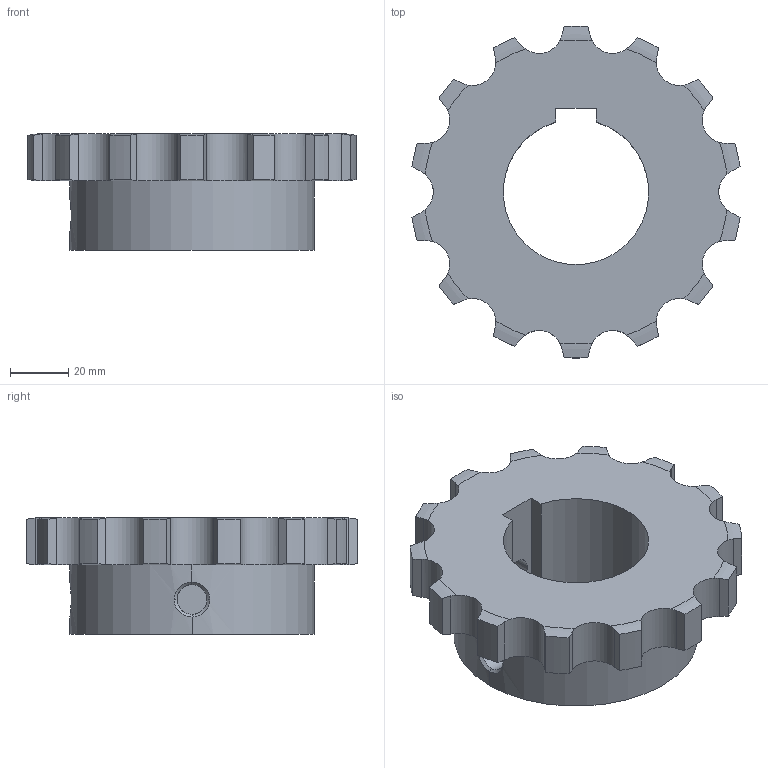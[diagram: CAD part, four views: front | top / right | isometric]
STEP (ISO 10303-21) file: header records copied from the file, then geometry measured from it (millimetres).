
FILE_DESCRIPTION((''),'2;1');
FILE_NAME('510-501-5014_PRT','2021-02-13T',('Brieden'),('Brieden'),'PRO/ENGINEER BY PARAMETRIC TECHNOLOGY CORPORATION, 2010160','PRO/ENGINEER BY PARAMETRIC TECHNOLOGY CORPORATION, 2010160','');
FILE_SCHEMA(('AUTOMOTIVE_DESIGN { 1 0 10303 214 1 1 1 1 }'));
Length unit declared in the file: millimetre
Products named in the file (1): 510-501-5014_PRT
Bounding box: 112.81 x 114.12 x 40 mm (x, y, z)
Volume: 191853.6 mm3; surface area: 34459 mm2
Topology: 1 solids, 1 shells, 104 faces, 297 edges, 196 vertices
Faces by surface type: cylinder 63, torus 28, plane 7, bspline 6
Entity records: 5298 total; most frequent: CARTESIAN_POINT 1788, ORIENTED_EDGE 594, DIRECTION 463, PRESENTATION_STYLE_ASSIGNMENT 298, STYLED_ITEM 298, CURVE_STYLE 297, EDGE_CURVE 297, VERTEX_POINT 196
